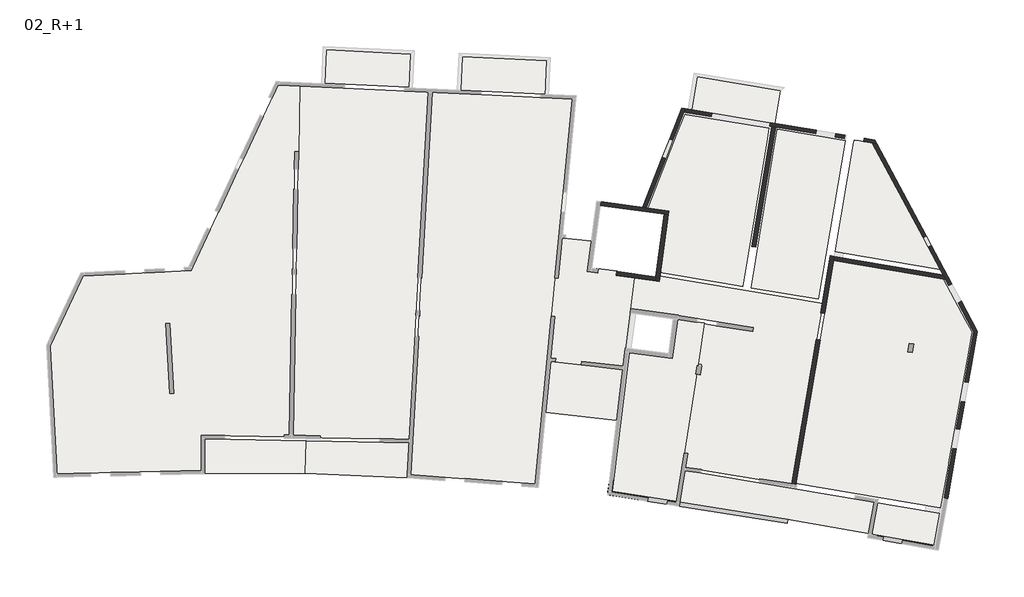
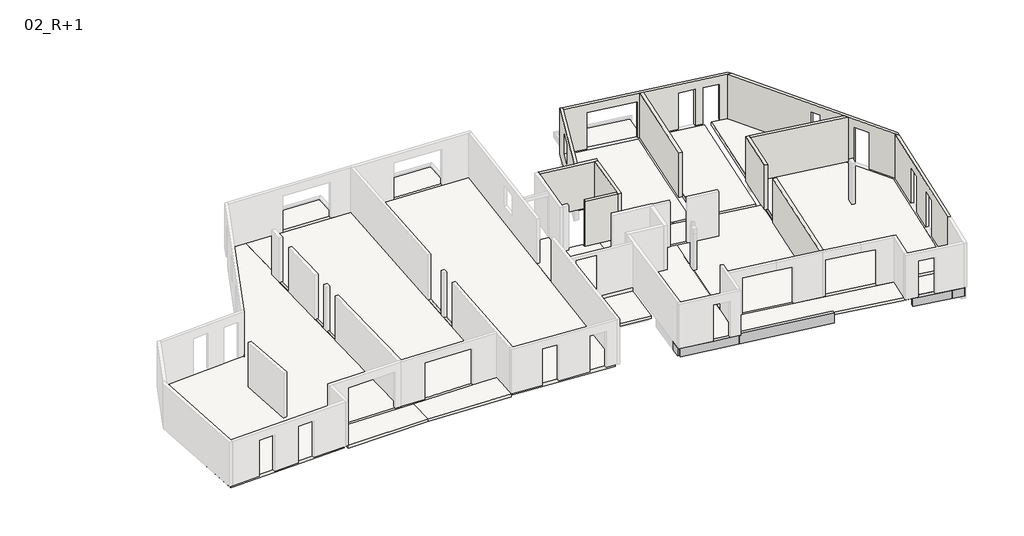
# One storey, part 2 of 3: 17 slabs, 11 walls, 5 beams.
"""IFC4 building model written with IfcOpenShell, lengths in millimetres."""

from ifc_helpers import new_model, si_unit, frame, origin, place, context, project, spatial, polyline, circle_curve, outline, extrude, faceted_brep, element, save
from ifc_brep_helpers import plane_surface, revolved_surface, advanced_brep

model = new_model("IFC4")

# Units and contexts
model_context = context("Model", 3, world=origin())
ifc_project = project(units=[si_unit("LENGTHUNIT", "METRE", prefix="MILLI")], contexts=[model_context])

# Site, building, storey
site = spatial("IfcSite", under=ifc_project)
building = spatial("IfcBuilding", under=site)
storey = spatial("IfcBuildingStorey", under=building, Name="02_R+1", Elevation=24440.0)

# Beams
placement = place(None, origin())
element("IfcBeam", 1, ObjectType="Poutre_Rect_2013_JBE : 20x50ht", at=placement, inside=storey, context=model_context, shape_type="Brep", body=[
    faceted_brep([(11077.6030366, -2223.897951, 24440.0), (10604.6750442, -2149.0391651, 24440.0), (9715.7422841, -2008.3318518, 24440.0), (8000.7446428, -1736.8684508, 24440.0), (8000.7446428, -1736.8684508, 23940.0), (11077.6030366, -2223.897951, 23940.0), (8019.266603, -1619.8540835, 23940.0), (8117.3873651, -1631.8594586, 23940.0), (8126.8717599, -1554.3428431, 23940.0), (11108.8713284, -2026.3573377, 23940.0), (11108.8713284, -2026.3573377, 24440.0), (11108.8713284, -2026.3573377, 24280.0), (8126.8717599, -1554.3428431, 24440.0), (11040.9672201, -2015.608938, 24440.0), (8117.3873651, -1631.8594586, 24440.0), (8019.266603, -1619.8540835, 24440.0)], [[[0, 1, 2, 3, 4, 5]], [[5, 4, 6, 7, 8, 9]], [[10, 11, 9, 8, 12, 13]], [[3, 2, 1, 0, 10, 13, 12, 14, 15]], [[4, 3, 15, 6]], [[0, 5, 9, 11, 10]], [[7, 14, 12, 8]], [[14, 7, 6, 15]]]),
])
element("IfcBeam", 2, ObjectType="Poutre_Rect_2013_JBE : 20x50ht", at=placement, inside=storey, context=model_context, shape_type="SolidModel", body=[
    advanced_brep(
    [(22829.5711862, -4224.8505061, 23940.0), (22829.5711862, -4224.8505061, 24440.0), (22826.5300105, -4224.2998495, 24440.0), (22826.5300105, -4224.2998495, 23940.0), (22826.8381325, -4222.5981484, 23940.0), (22829.961114, -4222.6708712, 23940.0), (22829.961114, -4222.6708712, 24440.0), (22826.8381325, -4222.5981484, 24440.0)],
    [
        (0, 1),
        (1, 2),
        (2, 3),
        (3, 0),
        (3, 4),
        (4, 5, circle_curve(frame((22831.8914389, -4072.6832922, 23940.0), z_axis=(0.0, 0.0, 1.0), x_axis=(1.0, 0.0, 0.0)), 150.0)),
        (5, 0),
        (1, 6),
        (6, 7, circle_curve(frame((22831.8914389, -4072.6832922, 24440.0), z_axis=(0.0, 0.0, -1.0), x_axis=(1.0, 0.0, 0.0)), 150.0)),
        (7, 2),
        (5, 6),
        (7, 4),
    ],
    [
        plane_surface(frame((22177.0901817, -4106.707721, 24440.0), z_axis=(-0.17816989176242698, -0.9839997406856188, 0.0), x_axis=(-0.9839997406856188, 0.17816989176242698, 0.0))),
        plane_surface(frame((22177.0901817, -4106.707721, 23940.0), z_axis=(0.0, 0.0, -1.0), x_axis=(-0.9839997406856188, 0.17816989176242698, 0.0))),
        plane_surface(frame((22212.72416, -3909.9077728, 24440.0), z_axis=(0.0, 0.0, 1.0), x_axis=(-0.9839997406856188, 0.17816989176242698, 0.0))),
        plane_surface(frame((22858.209596, -4064.7663094, 24440.0), z_axis=(0.9843722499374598, -0.17610018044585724, 0.0), x_axis=(0.0, 0.0, 1.0))),
        plane_surface(frame((22844.3469997, -4125.8998755, 24440.0), z_axis=(-0.9839997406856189, 0.178169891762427, 0.0), x_axis=(0.178169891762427, 0.9839997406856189, 0.0))),
        revolved_surface(polyline([(22981.8914389, -4072.6832922, 24440.0), (22981.8914389, -4072.6832922, 23940.0)]), (22831.8914389, -4072.6832922, 23690.0), (0.0, 0.0, 1.0)),
    ],
    [
        (0, [[1, 2, 3, 4]]),
        (1, [[-4, 5, 6, 7]]),
        (2, [[-2, 8, 9, 10]]),
        (3, [[-1, -7, 11, -8]]),
        (4, [[-3, -10, 12, -5]]),
        (5, [[-6, -12, -9, -11]]),
    ],
),
    faceted_brep([(20148.3574603, -3739.3711512, 24440.0), (20183.9914386, -3542.5712031, 24440.0), (20183.9914386, -3542.5712031, 23940.0), (20148.3574603, -3739.3711512, 23940.0), (22177.0901817, -4106.707721, 24440.0), (22177.0901817, -4106.707721, 23940.0), (22212.72416, -3909.9077728, 23940.0), (22212.72416, -3909.9077728, 24440.0), (20415.8013357, -3787.7964143, 24440.0), (21301.4011023, -3948.1493169, 24440.0)], [[[0, 1, 2, 3]], [[4, 5, 6, 7]], [[3, 2, 6, 5]], [[2, 1, 7, 6]], [[1, 0, 8, 9, 4, 7]], [[0, 3, 5, 4, 9, 8]]]),
])
element("IfcBeam", 3, ObjectType="Poutre_Rect_2013_JBE : 20x50ht", at=placement, inside=storey, context=model_context, shape_type="AdvancedBrep", body=[
    advanced_brep(
    [(22826.5300105, -4224.2998495, 24440.0), (22795.1311191, -4218.6145461, 24440.0), (22177.0901817, -4106.707721, 24440.0), (22177.0901817, -4106.707721, 23940.0), (22826.5300105, -4224.2998495, 23940.0), (22212.72416, -3909.9077728, 23940.0), (22701.5646868, -3998.4206658, 23940.0), (22681.8914389, -4072.6832922, 23940.0), (22826.8381325, -4222.5981484, 23940.0), (22212.72416, -3909.9077728, 24440.0), (22701.5646868, -3998.4206658, 24440.0), (22826.8381325, -4222.5981484, 24440.0), (22681.8914389, -4072.6832922, 24440.0)],
    [
        (0, 1),
        (1, 2),
        (2, 3),
        (3, 4),
        (4, 0),
        (3, 5),
        (5, 6),
        (6, 7, circle_curve(frame((22831.8914389, -4072.6832922, 23940.0), z_axis=(0.0, 0.0, 1.0), x_axis=(1.0, 0.0, 0.0)), 150.0)),
        (7, 8, circle_curve(frame((22831.8914389, -4072.6832922, 23940.0), z_axis=(0.0, 0.0, 1.0), x_axis=(1.0, 0.0, 0.0)), 150.0)),
        (8, 4),
        (5, 9),
        (9, 10),
        (10, 6),
        (0, 11),
        (11, 12, circle_curve(frame((22831.8914389, -4072.6832922, 24440.0), z_axis=(0.0, 0.0, -1.0), x_axis=(1.0, 0.0, 0.0)), 150.0)),
        (12, 10, circle_curve(frame((22831.8914389, -4072.6832922, 24440.0), z_axis=(0.0, 0.0, -1.0), x_axis=(1.0, 0.0, 0.0)), 150.0)),
        (9, 2),
        (7, 12),
        (11, 8),
    ],
    [
        plane_surface(frame((22826.5300105, -4224.2998495, 24440.0), z_axis=(-0.17816989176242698, -0.9839997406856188, 0.0), x_axis=(-0.9839997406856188, 0.17816989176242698, 0.0))),
        plane_surface(frame((22826.5300105, -4224.2998495, 23940.0), z_axis=(0.0, 0.0, -1.0), x_axis=(-0.9839997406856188, 0.17816989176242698, 0.0))),
        plane_surface(frame((22862.1639889, -4027.4999014, 23940.0), z_axis=(0.17816989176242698, 0.9839997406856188, 0.0), x_axis=(-0.9839997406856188, 0.17816989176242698, 0.0))),
        plane_surface(frame((22862.1639889, -4027.4999014, 24440.0), z_axis=(0.0, 0.0, 1.0), x_axis=(-0.9839997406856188, 0.17816989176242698, 0.0))),
        plane_surface(frame((22194.9071708, -4008.3077469, 24440.0), z_axis=(-0.9839997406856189, 0.178169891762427, 0.0), x_axis=(0.178169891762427, 0.9839997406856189, 0.0))),
        revolved_surface(polyline([(22981.8914389, -4072.6832922, 24440.0), (22981.8914389, -4072.6832922, 23940.0)]), (22831.8914389, -4072.6832922, 23690.0), (0.0, 0.0, 1.0)),
        plane_surface(frame((22844.3469997, -4125.8998755, 24440.0), z_axis=(0.9839997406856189, -0.178169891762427, 0.0), x_axis=(0.178169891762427, 0.9839997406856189, 0.0))),
    ],
    [
        (0, [[1, 2, 3, 4, 5]]),
        (1, [[-4, 6, 7, 8, 9, 10]]),
        (2, [[11, 12, 13, -7]]),
        (3, [[-2, -1, 14, 15, 16, -12, 17]]),
        (4, [[-17, -11, -6, -3]]),
        (5, [[18, -15, 19, -9]]),
        (5, [[-18, -8, -13, -16]]),
        (6, [[-5, -10, -19, -14]]),
    ],
),
])
element("IfcBeam", 4, ObjectType="Poutre_Rect_2013_JBE : 20x50ht", at=placement, inside=storey, context=model_context, shape_type="Brep", body=[
    faceted_brep([(7918.867791, -1607.569982, 23940.0), (7918.867791, -1607.569982, 24440.0), (7991.7362208, -1012.0112595, 24440.0), (7991.7362208, -1012.0112595, 23940.0), (8117.3873651, -1631.8594586, 23940.0), (8019.266603, -1619.8540835, 23940.0), (8190.2557949, -1036.3007361, 23940.0), (8126.8717599, -1554.3428431, 23940.0), (8117.3873651, -1631.8594586, 24440.0), (8190.2557949, -1036.3007361, 24440.0), (8126.8717599, -1554.3428431, 24440.0), (8019.266603, -1619.8540835, 24440.0)], [[[0, 1, 2, 3]], [[4, 5, 0, 3, 6, 7]], [[8, 4, 7, 6, 9, 10]], [[1, 11, 8, 10, 9, 2]], [[2, 9, 6, 3]], [[1, 0, 5, 4, 8, 11]]]),
])
element("IfcBeam", 5, ObjectType="Poutre_Rect_2013_JBE : 20x60ht", at=placement, inside=storey, context=model_context, shape_type="Brep", body=[
    faceted_brep([(11078.4272293, -2224.0284108, 23940.0), (16075.2535653, -3014.9656337, 23940.0), (16075.2535653, -3014.9656337, 24540.0), (11167.7315031, -2238.1641981, 24540.0), (11167.7315031, -2238.1641981, 24440.0), (11078.4272293, -2224.0284108, 24440.0), (11109.6955211, -2026.4877974, 23940.0), (16106.5218571, -2817.4250203, 23940.0), (11109.6955211, -2026.4877974, 24540.0), (16106.5218571, -2817.4250203, 24540.0), (11103.4418628, -2065.9959201, 24540.0), (11192.4575962, -2080.086035, 24540.0), (11103.4418628, -2065.9959201, 24440.0), (11192.4575962, -2080.086035, 24440.0)], [[[0, 1, 2, 3, 4, 5]], [[1, 0, 6, 7]], [[7, 6, 8, 9]], [[9, 8, 10, 11, 3, 2]], [[8, 6, 0, 5, 12, 10]], [[2, 1, 7, 9]], [[4, 13, 12, 5]], [[13, 4, 3, 11]], [[12, 13, 11, 10]]]),
])

# Slabs
element("IfcSlab", 6, ObjectType="Dalle Béton - 16cm", at=placement, inside=storey, context=model_context, shape_type="SweptSolid", body=[
    extrude(outline(polyline([(5101.3483909, 2053.8091625), (5325.4558218, 4362.8904338), (5519.3511629, 4349.0909118), (5540.7381108, 4537.8814945), (6737.30547, 4402.3295864), (6715.3413478, 4208.4440699), (8585.3383088, 3986.8264477), (8312.8839194, 1687.8717209), (5101.3483909, 2053.8091625)])), frame((0.0, 0.0, 24080.0), z_axis=(0.0, 0.0, 1.0), x_axis=(1.0, 0.0, 0.0)), (0.0, 0.0, 1.0), 160.0),
])
element("IfcSlab", 7, ObjectType="Dalle Béton - 20 cm", at=placement, inside=storey, context=model_context, shape_type="SweptSolid", body=[
    extrude(outline(polyline([(-1056.2104012, 18368.851513), (-1129.8435578, 16850.3904702), (-4971.2662401, 17036.6729299), (-4897.6313746, 18555.1338898), (-1056.2104012, 18368.851513)])), frame((0.0, 0.0, 24240.0), z_axis=(0.0, 0.0, 1.0), x_axis=(1.0, 0.0, 0.0)), (0.0, 0.0, 1.0), 200.0),
])
element("IfcSlab", 8, ObjectType="Dalle Béton - 20 cm", at=placement, inside=storey, context=model_context, shape_type="SweptSolid", body=[
    extrude(outline(polyline([(5130.3812034, 18068.8475145), (5055.7944774, 16530.7332252), (1214.3817467, 16717.0122297), (1288.96939, 18255.1285229), (5130.3812034, 18068.8475145)])), frame((0.0, 0.0, 24240.0), z_axis=(0.0, 0.0, 1.0), x_axis=(1.0, 0.0, 0.0)), (0.0, 0.0, 1.0), 200.0),
])
element("IfcSlab", 9, ObjectType="Dalle Béton - 17 cm", at=placement, inside=storey, context=model_context, shape_type="Brep", body=[
    faceted_brep([(11974.5745111, 17328.1102707, 24270.0), (15759.3325739, 16706.9753034, 24270.0), (15515.5819372, 15221.7309745, 24270.0), (15513.1730363, 15207.0528327, 24270.0), (15404.2928052, 15224.9212866, 24270.0), (11728.4125486, 15828.1740173, 24270.0), (11974.5745111, 17328.1102707, 24440.0), (11728.4125486, 15828.1740173, 24440.0), (15404.2928052, 15224.9212866, 24440.0), (15513.1730363, 15207.0528327, 24440.0), (15515.5819372, 15221.7309745, 24440.0), (15759.3325739, 16706.9753034, 24440.0)], [[[0, 1, 2, 3, 4, 5]], [[6, 7, 8, 9, 10, 11]], [[1, 0, 6, 11]], [[3, 2, 1, 11, 10, 9]], [[5, 4, 3, 9, 8, 7]], [[0, 5, 7, 6]]]),
])
element("IfcSlab", 10, ObjectType="Dalle Béton - 17 cm", at=placement, inside=storey, context=model_context, shape_type="SweptSolid", body=[
    extrude(outline(polyline([(-5854.873786, -744.6440841), (-10432.539406, -759.4489974), (-10432.539406, 832.9087716), (-5825.1354787, 740.6607777), (-5854.873786, -744.6440841)])), frame((0.0, 0.0, 24270.0), z_axis=(0.0, 0.0, 1.0), x_axis=(1.0, 0.0, 0.0)), (0.0, 0.0, 1.0), 170.0),
])
element("IfcSlab", 11, ObjectType="Dalle Béton - 20 cm", at=placement, inside=storey, context=model_context, shape_type="Brep", body=[
    faceted_brep([(5491.1098158, 6387.5269799, 24240.0), (5331.8579762, 6402.9817999, 24240.0), (5503.4712951, 8171.3451099, 24240.0), (5662.0907393, 8155.8426657, 24240.0), (5840.4993202, 9981.3012561, 24240.0), (7167.8421357, 9851.5753071, 24240.0), (6977.632273, 8461.7229996, 24240.0), (7389.2652586, 8405.3884861, 24240.0), (7416.3281594, 8603.1355145, 24240.0), (8308.0493352, 8481.7935346, 24240.0), (8305.3869702, 8462.2496817, 24240.0), (8283.7532007, 8303.4407983, 24240.0), (8281.090836, 8283.8969474, 24240.0), (9117.3473871, 8169.9777441, 24240.0), (8581.9072429, 4002.1517676, 24240.0), (5295.7451886, 4374.4219306, 24240.0), (5491.1098158, 6387.5269799, 24440.0), (5295.7451886, 4374.4219306, 24440.0), (8581.9072429, 4002.1517676, 24440.0), (9117.3473871, 8169.9777441, 24440.0), (8281.090836, 8283.8969474, 24440.0), (8305.3869702, 8462.2496817, 24440.0), (8308.0493352, 8481.7935346, 24440.0), (7416.3281594, 8603.1355145, 24440.0), (7389.2652586, 8405.3884861, 24440.0), (6977.632273, 8461.7229996, 24440.0), (7167.8421357, 9851.5753071, 24440.0), (5840.4993202, 9981.3012561, 24440.0), (5662.0907393, 8155.8426657, 24440.0), (5503.4712951, 8171.3451099, 24440.0), (5331.8579762, 6402.9817999, 24440.0)], [[[0, 1, 2, 3, 4, 5, 6, 7, 8, 9, 10, 11, 12, 13, 14, 15]], [[16, 17, 18, 19, 20, 21, 22, 23, 24, 25, 26, 27, 28, 29, 30]], [[1, 0, 16, 30]], [[2, 1, 30, 29]], [[3, 2, 29, 28]], [[4, 3, 28, 27]], [[5, 4, 27, 26]], [[6, 5, 26, 25]], [[7, 6, 25, 24]], [[8, 7, 24, 23]], [[9, 8, 23, 22]], [[12, 11, 10, 9, 22, 21, 20]], [[13, 12, 20, 19]], [[14, 13, 19, 18]], [[15, 14, 18, 17]], [[0, 15, 17, 16]]]),
])
element("IfcSlab", 12, ObjectType="Dalle Béton - 20 cm", at=placement, inside=storey, context=model_context, shape_type="Brep", body=[
    faceted_brep([(10249.466931, 8015.7545499, 24240.0), (10282.6620265, 8259.6402408, 24240.0), (17694.8431919, 7000.9752073, 24240.0), (16292.2324711, -1262.7209824, 24240.0), (11446.9652227, -452.2165629, 24240.0), (11541.4532647, 150.4178539, 24240.0), (11362.9063558, 178.3100474, 24240.0), (11974.1135134, 4084.2277976, 24240.0), (12151.9565546, 4056.4455607, 24240.0), (12179.0650675, 4234.190198, 24240.0), (12021.6337405, 4258.7837631, 24240.0), (12001.9105786, 4261.8648708, 24240.0), (12286.3478576, 6082.6394504, 24240.0), (12464.1916639, 6053.2995179, 24240.0), (14497.7111698, 5724.7084456, 24240.0), (14526.4244528, 5902.4035382, 24240.0), (11135.8083378, 6455.9243386, 24240.0), (8935.6468646, 6755.6375876, 24240.0), (9117.3467755, 8169.9778274, 24240.0), (10249.466931, 8015.7545499, 24440.0), (9117.3467755, 8169.9778274, 24440.0), (8935.6468646, 6755.6375876, 24440.0), (11135.8083378, 6455.9243386, 24440.0), (14526.4244528, 5902.4035382, 24440.0), (14497.7111698, 5724.7084456, 24440.0), (12464.1916639, 6053.2995179, 24440.0), (12286.3478576, 6082.6394504, 24440.0), (12001.9105786, 4261.8648708, 24440.0), (12021.6337405, 4258.7837631, 24440.0), (12179.0650675, 4234.190198, 24440.0), (12151.9565546, 4056.4455607, 24440.0), (11993.8688758, 4081.1416596, 24440.0), (11974.1135134, 4084.2277976, 24440.0), (11362.9063558, 178.3100474, 24440.0), (11541.4532647, 150.4178539, 24440.0), (11446.9652227, -452.2165629, 24440.0), (16292.2324711, -1262.7209824, 24440.0), (17694.8431919, 7000.9752073, 24440.0), (10282.6620265, 8259.6402408, 24440.0)], [[[0, 1, 2, 3, 4, 5, 6, 7, 8, 9, 10, 11, 12, 13, 14, 15, 16, 17, 18]], [[19, 20, 21, 22, 23, 24, 25, 26, 27, 28, 29, 30, 31, 32, 33, 34, 35, 36, 37, 38]], [[4, 3, 36, 35]], [[14, 13, 25, 24]], [[15, 14, 24, 23]], [[16, 15, 23, 22]], [[17, 16, 22, 21]], [[18, 17, 21, 20]], [[0, 18, 20, 19]], [[1, 0, 19, 38]], [[2, 1, 38, 37]], [[3, 2, 37, 36]], [[5, 4, 35, 34]], [[6, 5, 34, 33]], [[7, 6, 33, 32]], [[8, 7, 32, 31, 30]], [[9, 8, 30, 29]], [[11, 10, 9, 29, 28, 27]], [[12, 11, 27, 26]], [[13, 12, 26, 25]]]),
])
element("IfcSlab", 13, ObjectType="Dalle Béton - 20 cm", at=placement, inside=storey, context=model_context, shape_type="Brep", body=[
    faceted_brep([(12311.606551, 6114.0559146, 24240.0), (12021.6337405, 4258.7837631, 24240.0), (11993.8685095, 4081.1393145, 24240.0), (11041.7059521, -2010.8824643, 24240.0), (8126.8717555, -1554.3428424, 24240.0), (8899.7255172, 4762.2444657, 24240.0), (10831.8120496, 4499.0471785, 24240.0), (11074.7713485, 6282.5765762, 24240.0), (12311.606551, 6114.0559146, 24440.0), (11074.7713485, 6282.5765762, 24440.0), (10831.8120496, 4499.0471785, 24440.0), (8899.7255172, 4762.2444657, 24440.0), (8126.8717555, -1554.3428424, 24440.0), (11041.7059521, -2010.8824643, 24440.0), (11993.8685095, 4081.1393145, 24440.0), (12021.6337405, 4258.7837631, 24440.0)], [[[0, 1, 2, 3, 4, 5, 6, 7]], [[8, 9, 10, 11, 12, 13, 14, 15]], [[3, 2, 1, 0, 8, 15, 14, 13]], [[4, 3, 13, 12]], [[5, 4, 12, 11]], [[6, 5, 11, 10]], [[7, 6, 10, 9]], [[0, 7, 9, 8]]]),
])
element("IfcSlab", 14, ObjectType="Dalle Béton - 20 cm", at=placement, inside=storey, context=model_context, shape_type="Brep", body=[
    faceted_brep([(11432.9955177, 15623.3110459, 24240.0), (11466.8231345, 15617.7595587, 24240.0), (15244.3698117, 14997.8222405, 24240.0), (15138.656606, 14354.8760852, 24240.0), (14894.7567622, 12871.4808387, 24240.0), (14881.0942524, 12788.3856555, 24240.0), (14598.785391, 11071.3873316, 24240.0), (14058.1957652, 7783.5292141, 24240.0), (13141.1615985, 7934.3079701, 24240.0), (10304.2622822, 8418.2598688, 24240.0), (10686.4424382, 11224.7671153, 24240.0), (9749.3306665, 11353.1327888, 24240.0), (11419.4913594, 15589.0612586, 24240.0), (11432.9955177, 15623.3110459, 24440.0), (11419.4913594, 15589.0612586, 24440.0), (11127.9277909, 14849.5860537, 24440.0), (9749.3306665, 11353.1327888, 24440.0), (10686.4424382, 11224.7671153, 24440.0), (10304.2622822, 8418.2598688, 24440.0), (13141.1615985, 7934.3079701, 24440.0), (14058.1957652, 7783.5292141, 24440.0), (14598.785391, 11071.3873316, 24440.0), (15138.656606, 14354.8760852, 24440.0), (15244.3698117, 14997.8222405, 24440.0), (11466.8231345, 15617.7595587, 24440.0)], [[[0, 1, 2, 3, 4, 5, 6, 7, 8, 9, 10, 11, 12]], [[13, 14, 15, 16, 17, 18, 19, 20, 21, 22, 23, 24]], [[2, 1, 0, 13, 24, 23]], [[7, 6, 5, 4, 3, 2, 23, 22, 21, 20]], [[9, 8, 19, 18]], [[10, 9, 18, 17]], [[11, 10, 17, 16]], [[0, 12, 11, 16, 15, 14, 13]], [[8, 7, 20, 19]]]),
])
element("IfcSlab", 15, ObjectType="Dalle Béton - 20 cm", at=placement, inside=storey, context=model_context, shape_type="SweptSolid", body=[
    extrude(outline(polyline([(18712.6366241, 14431.6255337), (17485.0971235, 7199.4389229), (14447.263843, 7715.0589627), (15634.395889, 14936.7989887), (18712.6366241, 14431.6255337)])), frame((0.0, 0.0, 24240.0), z_axis=(0.0, 0.0, 1.0), x_axis=(1.0, 0.0, 0.0)), (0.0, 0.0, 1.0), 200.0),
])
element("IfcSlab", 16, ObjectType="Dalle Béton - 20 cm", at=placement, inside=storey, context=model_context, shape_type="Brep", body=[
    faceted_brep([(23174.9182296, 8117.1072, 24240.0), (24443.5401794, 5748.1098125, 24240.0), (24475.8987248, 5687.6841597, 24240.0), (24456.9211098, 5581.6022837, 24240.0), (23413.8719324, -248.8782017, 24240.0), (23374.2516207, -470.3494991, 24240.0), (23045.6984842, -2306.9097422, 24240.0), (16465.1015456, -1200.3723087, 24240.0), (17866.0697561, 7053.6311728, 24240.0), (18191.669955, 8971.9416036, 24240.0), (23174.9182296, 8117.1072, 24440.0), (18565.8501525, 8907.7541322, 24440.0), (18191.669955, 8971.9416036, 24440.0), (17879.4568571, 7132.5031293, 24440.0), (17866.0696984, 7053.6311826, 24440.0), (16465.1015456, -1200.3723087, 24440.0), (23045.6984842, -2306.9097422, 24440.0), (23374.2516207, -470.3494991, 24440.0), (23397.5944422, -339.866806, 24440.0), (23397.631885, -339.6575067, 24440.0), (23413.8719324, -248.8782017, 24440.0), (24268.2542496, 4526.9842743, 24440.0), (24456.9211098, 5581.6022837, 24440.0), (24475.8987248, 5687.6841597, 24440.0), (24443.5401794, 5748.1098125, 24440.0), (24190.0369585, 6221.4962836, 24440.0), (23349.1525437, 7791.7457831, 24440.0), (23045.6984842, -2306.9097422, 24340.0), (16465.1015456, -1200.3723087, 24340.0)], [[[0, 1, 2, 3, 4, 5, 6, 7, 8, 9]], [[10, 11, 12, 13, 14, 15, 16, 17, 18, 19, 20, 21, 22, 23, 24, 25, 26]], [[2, 1, 0, 10, 26, 25, 24, 23]], [[6, 5, 4, 3, 2, 23, 22, 21, 20, 19, 18, 17, 16, 27]], [[7, 6, 27, 16, 15, 28]], [[8, 7, 28, 15, 14]], [[9, 8, 14, 13, 12]], [[0, 9, 12, 11, 10]]]),
])
element("IfcSlab", 17, ObjectType="Dalle Béton - 20 cm", at=placement, inside=storey, context=model_context, shape_type="Brep", body=[
    faceted_brep([(19957.700063, 14315.5163584, 24240.0), (23048.0206532, 8544.7180478, 24240.0), (18258.605852, 9366.3019464, 24240.0), (19107.3624505, 14366.8466464, 24240.0), (19122.6631912, 14456.9926763, 24240.0), (19329.2803077, 14421.9865229, 24240.0), (19816.9275572, 14339.3667732, 24240.0), (19871.0077552, 14330.204223, 24240.0), (19957.700063, 14315.5163584, 24440.0), (19871.0077552, 14330.204223, 24440.0), (19816.9275572, 14339.3667732, 24440.0), (19329.2803077, 14421.9865229, 24440.0), (19122.6631912, 14456.9926763, 24440.0), (19107.3624505, 14366.8466464, 24440.0), (18258.605852, 9366.3019464, 24440.0), (18633.4789682, 9301.9956106, 24440.0), (23048.0206532, 8544.7180478, 24440.0)], [[[0, 1, 2, 3, 4, 5, 6, 7]], [[8, 9, 10, 11, 12, 13, 14, 15, 16]], [[1, 0, 8, 16]], [[2, 1, 16, 15, 14]], [[4, 3, 2, 14, 13, 12]], [[0, 7, 6, 5, 4, 12, 11, 10, 9, 8]]]),
])
element("IfcSlab", 18, ObjectType="Dalle Béton - 16cm", at=placement, inside=storey, context=model_context, shape_type="Brep", body=[
    faceted_brep([(23000.6395192, -2552.842739, 24280.0), (22753.0361505, -3945.0829651, 24280.0), (22743.6591385, -3997.8086342, 24280.0), (22706.0095141, -3991.1128257, 24280.0), (16106.5218571, -2817.4250203, 24280.0), (11040.9672201, -2015.608938, 24280.0), (11265.4188124, -579.5474401, 24280.0), (23000.6395192, -2552.842739, 24440.0), (11265.4188124, -579.5474401, 24440.0), (11040.9672201, -2015.608938, 24440.0), (11108.8713284, -2026.3573377, 24440.0), (16106.5218571, -2817.4250203, 24440.0), (22706.0095141, -3991.1128257, 24440.0), (22743.6591385, -3997.8086342, 24440.0), (22753.0361505, -3945.0829651, 24440.0)], [[[0, 1, 2, 3, 4, 5, 6]], [[7, 8, 9, 10, 11, 12, 13, 14]], [[2, 1, 0, 7, 14, 13]], [[5, 4, 11, 10, 9]], [[6, 5, 9, 8]], [[0, 6, 8, 7]], [[4, 3, 2, 13, 12, 11]]]),
])
element("IfcSlab", 19, ObjectType="Dalle Béton - 20 cm", at=placement, inside=storey, context=model_context, shape_type="SweptSolid", body=[
    extrude(outline(polyline([(-265.1513645, 16628.8212578), (-1148.9612613, 807.0679529), (-6407.3362598, 912.3494851), (-6110.3940721, 16912.2706211), (-265.1513645, 16628.8212578)])), frame((0.0, 0.0, 24240.0), z_axis=(0.0, 0.0, 1.0), x_axis=(1.0, 0.0, 0.0)), (0.0, 0.0, 1.0), 200.0),
])
element("IfcSlab", 20, ObjectType="Dalle Béton - 20 cm", at=placement, inside=storey, context=model_context, shape_type="SweptSolid", body=[
    extrude(outline(polyline([(6293.3502984, 16310.5332659), (4593.7886699, -1202.3411157), (-1078.1174191, -793.4462821), (-105.3469845, 16620.820924), (6293.3502984, 16310.5332659)])), frame((0.0, 0.0, 24240.0), z_axis=(0.0, 0.0, 1.0), x_axis=(1.0, 0.0, 0.0)), (0.0, 0.0, 1.0), 200.0),
])
element("IfcSlab", 21, ObjectType="Dalle Béton - 20 cm", at=placement, inside=storey, context=model_context, shape_type="SweptSolid", body=[
    extrude(outline(polyline([(-7091.4103727, 16959.5951476), (-6111.7882315, 16912.1259405), (-6167.4275253, 13900.0392749), (-6347.3968238, 13903.3636695), (-6587.300586, 915.9428439), (-10592.539406, 996.1518333), (-10592.539406, -602.8739159), (-17173.7794796, -757.3651624), (-17482.5470777, 5069.5529172), (-15977.5520769, 8246.4453149), (-11056.771437, 8509.6204661), (-7091.4103727, 16959.5951476)]), holes=[polyline([(-12040.4442504, 2904.4478793), (-11860.6969191, 2913.981867), (-12029.8687375, 6103.4324825), (-12209.6160688, 6093.8984948), (-12040.4442504, 2904.4478793)])]), frame((0.0, 0.0, 24240.0), z_axis=(0.0, 0.0, 1.0), x_axis=(1.0, 0.0, 0.0)), (0.0, 0.0, 1.0), 200.0),
])
element("IfcSlab", 22, ObjectType="Dalle Béton - 17 cm", at=placement, inside=storey, context=model_context, shape_type="SweptSolid", body=[
    extrude(outline(polyline([(-1157.8907526, 647.2146701), (-1226.6982163, -943.150139), (-5854.8744965, -744.67957), (-5825.1354787, 740.6607777), (-1157.8907526, 647.2146701)])), frame((0.0, 0.0, 24270.0), z_axis=(0.0, 0.0, 1.0), x_axis=(1.0, 0.0, 0.0)), (0.0, 0.0, 1.0), 170.0),
])

# Walls
element("IfcWall", 23, ObjectType="Voile BA 16", at=placement, inside=storey, context=model_context, shape_type="Brep", body=[
    faceted_brep([(9657.5448369, 11365.7056219, 24440.0), (11376.0899337, 15724.3485553, 24440.0), (11436.1290894, 15876.6222678, 24440.0), (11436.1290894, 15876.6222678, 27140.0), (11376.0899337, 15724.3485553, 27140.0), (9657.5448369, 11365.7056219, 27140.0), (10540.0745341, 13604.0128012, 25440.0), (10540.0745341, 13604.0128012, 26640.0), (10870.1966733, 14441.2817981, 26640.0), (10870.1966733, 14441.2817981, 25440.0), (11274.6173725, 15903.1919694, 24440.0), (11243.8153276, 15825.0705892, 24440.0), (10895.3530696, 14941.286648, 24440.0), (9494.3700288, 11388.057325, 24440.0), (9494.3700288, 11388.057325, 27140.0), (11274.6173725, 15903.1919694, 27140.0), (10391.2267124, 13662.7011815, 26640.0), (10391.2267124, 13662.7011815, 25440.0), (10721.3488517, 14499.9701785, 25440.0), (10721.3488517, 14499.9701785, 26640.0)], [[[0, 1, 2, 3, 4, 5], [6, 7, 8, 9]], [[10, 11, 12, 13, 14, 15], [16, 17, 18, 19]], [[2, 1, 0, 13, 12, 11, 10]], [[5, 4, 3, 15, 14]], [[0, 5, 14, 13]], [[3, 2, 10, 15]], [[6, 17, 16, 7]], [[7, 16, 19, 8]], [[8, 19, 18, 9]], [[17, 6, 9, 18]]]),
])
element("IfcWall", 24, ObjectType="Voile BA 16", at=placement, inside=storey, context=model_context, shape_type="Brep", body=[
    faceted_brep([(20158.4324494, 14279.5975237, 27140.0), (19959.4013559, 14312.3394006, 27140.0), (11376.0899337, 15724.3485553, 27140.0), (11376.0899337, 15724.3485553, 24440.0), (11554.5486125, 15694.990971, 24440.0), (11702.5592362, 15670.6422849, 24440.0), (12609.9278742, 15521.3743904, 24440.0), (12609.9278742, 15521.3743904, 26640.0), (15274.1189087, 15083.0980719, 26640.0), (15274.1189087, 15083.0980719, 24440.0), (17376.4816955, 14737.2460627, 24440.0), (17376.4816955, 14737.2460627, 26640.0), (18264.5453737, 14591.1539565, 26640.0), (18264.5453737, 14591.1539565, 24440.0), (18678.9750902, 14522.9776403, 24440.0), (18678.9750902, 14522.9776403, 26640.0), (19567.0387683, 14376.8855341, 26640.0), (19567.0387683, 14376.8855341, 24440.0), (19959.4013559, 14312.3394006, 24440.0), (20158.4324494, 14279.5975237, 24440.0), (11436.1290894, 15876.6222678, 27140.0), (20063.2106613, 14457.412646, 27140.0), (20063.2106613, 14457.412646, 24440.0), (19593.0106983, 14534.7635214, 24440.0), (19593.0106983, 14534.7635214, 26640.0), (18704.9470201, 14680.8556275, 26640.0), (18704.9470201, 14680.8556275, 24440.0), (18290.5173037, 14749.0319438, 24440.0), (18290.5173037, 14749.0319438, 26640.0), (17402.4536255, 14895.1240499, 26640.0), (17402.4536255, 14895.1240499, 24440.0), (15658.5656815, 15182.0046745, 24440.0), (15551.6568789, 15199.5918504, 24440.0), (15512.9924383, 15205.9523961, 24440.0), (15300.0908387, 15240.9760592, 24440.0), (15300.0908387, 15240.9760592, 26640.0), (12635.8998042, 15679.2523777, 26640.0), (12635.8998042, 15679.2523777, 24440.0), (11728.4709985, 15828.5301701, 24440.0), (11580.4603748, 15852.8788562, 24440.0), (11436.1290894, 15876.6222678, 24440.0)], [[[0, 1, 2, 3, 4, 5, 6, 7, 8, 9, 10, 11, 12, 13, 14, 15, 16, 17, 18, 19]], [[20, 21, 22, 23, 24, 25, 26, 27, 28, 29, 30, 31, 32, 33, 34, 35, 36, 37, 38, 39, 40]], [[3, 40, 39, 38, 37, 6, 5, 4]], [[22, 19, 18, 17, 23]], [[30, 10, 9, 34, 33, 32, 31]], [[13, 27, 26, 14]], [[2, 1, 0, 21, 20]], [[3, 2, 20, 40]], [[0, 19, 22, 21]], [[11, 10, 30, 29]], [[13, 12, 28, 27]], [[28, 12, 11, 29]], [[25, 15, 14, 26]], [[15, 25, 24, 16]], [[16, 24, 23, 17]], [[36, 7, 6, 37]], [[7, 36, 35, 8]], [[8, 35, 34, 9]]]),
])
element("IfcWall", 25, ObjectType="Voile BA 16", at=placement, inside=storey, context=model_context, shape_type="Brep", body=[
    faceted_brep([(24691.8359397, 5475.0926801, 27140.0), (24569.997824, 5702.6105611, 27140.0), (23287.3376651, 8097.8225987, 27140.0), (23179.6450074, 8298.9255553, 27140.0), (19959.4013559, 14312.3394006, 27140.0), (19959.4013559, 14312.3394006, 24440.0), (23179.6450074, 8298.9255553, 24440.0), (23287.3376651, 8097.8225987, 24440.0), (23432.62809, 7826.5103792, 24440.0), (23432.62809, 7826.5103792, 26640.0), (23857.5014598, 7033.1109718, 26640.0), (23857.5014598, 7033.1109718, 24440.0), (24569.997824, 5702.6105611, 24440.0), (24691.8359397, 5475.0926801, 24440.0), (22265.806533, 10005.4078992, 25440.0), (22265.806533, 10005.4078992, 26640.0), (22501.847294, 9564.6304507, 26640.0), (22501.847294, 9564.6304507, 25440.0), (20158.4324494, 14279.5975237, 27140.0), (24737.2851114, 5729.1463859, 27140.0), (24737.2851114, 5729.1463859, 24440.0), (24721.9994873, 5757.6904321, 24440.0), (24410.4256828, 6339.5166642, 24440.0), (23998.5502434, 7108.6440153, 24440.0), (23998.5502434, 7108.6440153, 26640.0), (23573.6768735, 7902.0434227, 26640.0), (23573.6768735, 7902.0434227, 24440.0), (23569.541268, 7909.7661637, 24440.0), (23247.877437, 8510.4342944, 24440.0), (20158.4324494, 14279.5975237, 24440.0), (22406.8553165, 10080.9409427, 26640.0), (22406.8553165, 10080.9409427, 25440.0), (22642.8960775, 9640.1634942, 25440.0), (22642.8960775, 9640.1634942, 26640.0), (24729.1895322, 5683.8933741, 24440.0)], [[[0, 1, 2, 3, 4, 5, 6, 7, 8, 9, 10, 11, 12, 13], [14, 15, 16, 17]], [[18, 19, 20, 21, 22, 23, 24, 25, 26, 27, 28, 29], [30, 31, 32, 33]], [[5, 29, 28, 27, 26, 8, 7, 6]], [[20, 34, 13, 12, 11, 23, 22, 21]], [[4, 3, 2, 1, 0, 19, 18]], [[5, 4, 18, 29]], [[0, 13, 34, 20, 19]], [[10, 24, 23, 11]], [[24, 10, 9, 25]], [[25, 9, 8, 26]], [[14, 31, 30, 15]], [[15, 30, 33, 16]], [[16, 33, 32, 17]], [[31, 14, 17, 32]]]),
])
element("IfcWall", 26, ObjectType="Voile BA 16", at=placement, inside=storey, context=model_context, shape_type="Brep", body=[
    faceted_brep([(23217.7122988, -1856.4523631, 24440.0), (23217.7122988, -1856.4523631, 27140.0), (24569.997824, 5702.6105611, 27140.0), (24569.997824, 5702.6105611, 24440.0), (24164.3474195, 3435.0887429, 24440.0), (24164.3474195, 3435.0887429, 26640.0), (24005.8572571, 2549.153718, 26640.0), (24005.8572571, 2549.153718, 24440.0), (23780.4490261, 1289.157238, 24440.0), (23780.4490261, 1289.157238, 26640.0), (23621.9588637, 403.2222131, 26640.0), (23621.9588637, 403.2222131, 24440.0), (23375.2118588, -1884.628392, 27140.0), (23375.2118588, -1884.628392, 24440.0), (23643.6875047, -383.8918511, 24440.0), (23779.4584237, 375.0461842, 24440.0), (23779.4584237, 375.0461842, 26640.0), (23937.9485861, 1260.9812092, 26640.0), (23937.9485861, 1260.9812092, 24440.0), (24163.3568171, 2520.9776891, 24440.0), (24163.3568171, 2520.9776891, 26640.0), (24321.8469795, 3406.912714, 26640.0), (24321.8469795, 3406.912714, 24440.0), (24514.347312, 4482.9592292, 24440.0), (24691.8359397, 5475.0926801, 24440.0), (24691.8359397, 5475.0926801, 27140.0)], [[[0, 1, 2, 3, 4, 5, 6, 7, 8, 9, 10, 11]], [[12, 13, 14, 15, 16, 17, 18, 19, 20, 21, 22, 23, 24, 25]], [[3, 24, 23, 22, 4]], [[7, 19, 18, 8]], [[13, 0, 11, 15, 14]], [[1, 0, 13, 12]], [[2, 1, 12, 25]], [[3, 2, 25, 24]], [[7, 6, 20, 19]], [[5, 4, 22, 21]], [[10, 16, 15, 11]], [[17, 9, 8, 18]], [[5, 21, 20, 6]], [[9, 17, 16, 10]]]),
])
element("IfcWall", 27, ObjectType="Voile BA 18", at=placement, inside=storey, context=model_context, shape_type="Brep", body=[
    faceted_brep([(7571.2751033, 11469.802208, 24440.0), (10483.8014613, 11070.8440272, 24440.0), (10662.1361409, 11046.4157231, 24440.0), (10662.1361409, 11046.4157231, 27140.0), (10483.8014613, 11070.8440272, 27140.0), (7571.2751033, 11469.802208, 27140.0), (7595.7034827, 11648.1368773, 24440.0), (7595.7034827, 11648.1368773, 27140.0), (9494.3700288, 11388.057325, 27140.0), (9657.5448369, 11365.7056219, 27140.0), (10686.564529, 11224.7503913, 27140.0), (10686.564529, 11224.7503913, 24440.0), (9657.5448369, 11365.7056219, 24440.0), (9494.3700288, 11388.057325, 24440.0)], [[[0, 1, 2, 3, 4, 5]], [[6, 7, 8, 9, 10, 11, 12, 13]], [[2, 1, 0, 6, 13, 12, 11]], [[5, 4, 3, 10, 9, 8, 7]], [[0, 5, 7, 6]], [[3, 2, 11, 10]]]),
])
element("IfcWall", 28, ObjectType="Voile BA 18", at=placement, inside=storey, context=model_context, shape_type="Brep", body=[
    faceted_brep([(10483.8014613, 11070.8440272, 24440.0), (10093.1134996, 8218.7029877, 24440.0), (10068.6851019, 8040.3682493, 24440.0), (10068.6851019, 8040.3682493, 27140.0), (10093.1134996, 8218.7029877, 27140.0), (10483.8014613, 11070.8440272, 27140.0), (10662.1361409, 11046.4157231, 24440.0), (10662.1361409, 11046.4157231, 27140.0), (10247.0414688, 8016.098269, 27140.0), (10247.0414688, 8016.098269, 24440.0)], [[[0, 1, 2, 3, 4, 5]], [[6, 7, 8, 9]], [[2, 1, 0, 6, 9]], [[5, 4, 3, 8, 7]], [[0, 5, 7, 6]], [[3, 2, 9, 8]]]),
])
element("IfcWall", 29, ObjectType="Voile BA 18", at=placement, inside=storey, context=model_context, shape_type="SweptSolid", body=[
    extrude(outline(polyline([(8369.8474885, 8453.1977396), (10093.1134996, 8218.7029877), (10068.6851019, 8040.3682493), (8345.5775179, 8274.8414431), (8369.8474885, 8453.1977396)])), frame((0.0, 0.0, 24440.0), z_axis=(0.0, 0.0, 1.0), x_axis=(1.0, 0.0, 0.0)), (0.0, 0.0, 1.0), 2700.0),
])
element("IfcWall", 30, ObjectType="Voile BA 18", at=placement, inside=storey, context=model_context, shape_type="SweptSolid", body=[
    extrude(outline(polyline([(16280.6233185, -1207.7042821), (17396.7541287, 5368.1515748), (17574.2160436, 5338.0306726), (16458.1154419, -1237.6472067), (16370.140806, -1221.6955649), (16280.6233185, -1207.7042821)])), frame((0.0, 0.0, 24440.0), z_axis=(0.0, 0.0, 1.0), x_axis=(1.0, 0.0, 0.0)), (0.0, 0.0, 1.0), 2700.0),
])
element("IfcWall", 31, ObjectType="Voile BA 18", at=placement, inside=storey, context=model_context, shape_type="Brep", body=[
    faceted_brep([(17778.7685394, 6543.3120728, 24440.0), (18191.1847685, 8972.0248423, 24440.0), (18221.3189817, 9149.4847563, 24440.0), (18221.3189817, 9149.4847563, 27140.0), (18191.1847685, 8972.0248423, 27140.0), (17778.7685394, 6543.3120728, 27140.0), (17601.3088771, 6573.4462433, 24440.0), (17601.3088771, 6573.4462433, 27140.0), (18043.9100649, 9179.9177665, 27140.0), (18043.9100649, 9179.9177665, 24440.0)], [[[0, 1, 2, 3, 4, 5]], [[6, 7, 8, 9]], [[2, 1, 0, 6, 9]], [[5, 4, 3, 8, 7]], [[0, 5, 7, 6]], [[3, 2, 9, 8]]]),
])
element("IfcWall", 32, ObjectType="Voile BA 18", at=placement, inside=storey, context=model_context, shape_type="SweptSolid", body=[
    extrude(outline(polyline([(23287.3376651, 8097.8225987), (18191.1847685, 8972.0248423), (18221.3189817, 9149.4847563), (23179.6450074, 8298.9255553), (23287.3376651, 8097.8225987)])), frame((0.0, 0.0, 24440.0), z_axis=(0.0, 0.0, 1.0), x_axis=(1.0, 0.0, 0.0)), (0.0, 0.0, 1.0), 2700.0),
])
element("IfcWall", 33, ObjectType="Voile BA 18", at=placement, inside=storey, context=model_context, shape_type="SweptSolid", body=[
    extrude(outline(polyline([(14468.870163, 9608.9315414), (15366.8945429, 15067.8358918), (15544.5072785, 15038.6174706), (14646.4828986, 9579.7131202), (14468.870163, 9608.9315414)])), frame((0.0, 0.0, 24440.0), z_axis=(0.0, 0.0, 1.0), x_axis=(1.0, 0.0, 0.0)), (0.0, 0.0, 1.0), 2700.0),
])

save(model, "model.ifc")
